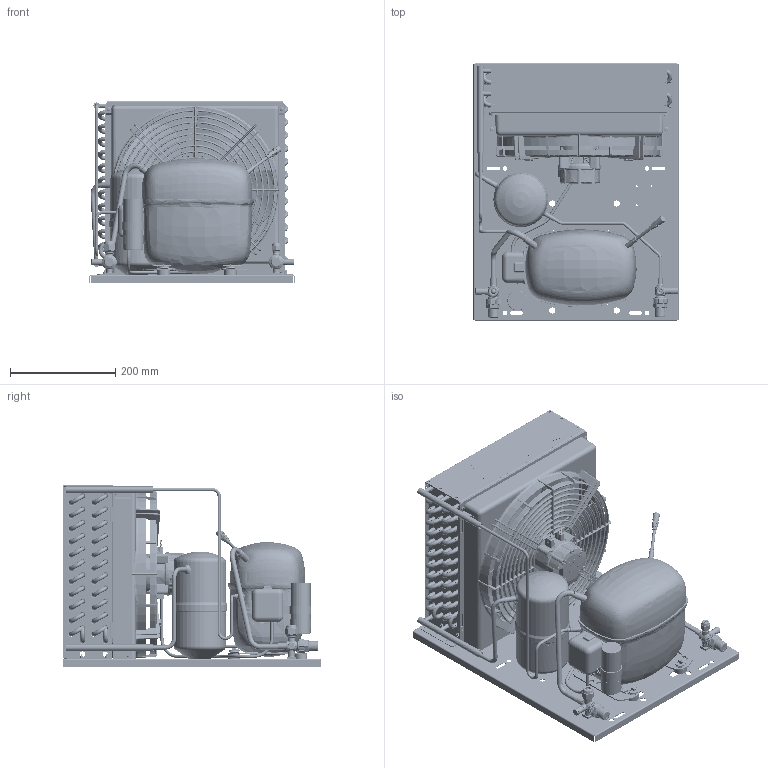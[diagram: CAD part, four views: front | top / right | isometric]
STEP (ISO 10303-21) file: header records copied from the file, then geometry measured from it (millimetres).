
FILE_DESCRIPTION(/* description */ ('Unknown'),/* implementation_level */ '2;1');
FILE_NAME(/* name */ '2298-0011',/* time_stamp */ '2021-12-15T09:05:55+01:00',/* author */ ('Unknown'),/* organization */ ('Unknown'),/* preprocessor_version */ 'ST-DEVELOPER v16.7',/* originating_system */ 'Solid Edge',/* authorisation */ 'Unknown');
FILE_SCHEMA (('AUTOMOTIVE_DESIGN {1 0 10303 214 3 1 1}'));
Products named in the file (60): 2298-0011; 92505124_oa_0; 1340315f70; r50115706; r50115707; 2990210; r59700361; r50115701; r50095108; r50115604; cg300n; 6062_22M6; a300-19; a300-19_costruzione_oa_1; a300-19_costruzione_oa_2; a300-19_costruzione_oa_3; a300-19_costruzione_oa_4; a300-19_costruzione_oa_5; 84fm8x12xxxteff00; 6072_23m10; 84DM8X6.9XXESRF00; 100_200vs00; 84a4.2x9.5xtbcf01; sc18cl-a-csr_piedino; 84RM10X21XXPIAF00; 84v1.8x35xxcopf00; 7210-0003; 8392_A; 7560_2; 7010_22; 7030_3m10; 7560_3; 99510255; 8351_2; 99510255_Tubo; 84t4.8x8xxxtcca00_oa_6; 84t4.8x8xxxtcca00_oa_7; 84t4.8x8xxxtcca00_oa_8; 84t4.8x8xxxtcca00_oa_9; 680063704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
Assembly tree (126 placements, depth 4):
  2298-0011
    92505124_oa_0
    1340315f70
      r50115706
      r50115707
      2990210  x24
      r59700361  x24
      r50115701
      r50095108
      r50115604  x2
    cg300n
    6062_22M6
    a300-19
      a300-19_costruzione_oa_1
      a300-19_costruzione_oa_2
      a300-19_costruzione_oa_3
      a300-19_costruzione_oa_4
      a300-19_costruzione_oa_5
    84fm8x12xxxteff00  x2
    6072_23m10
    84DM8X6.9XXESRF00
    100_200vs00
    84a4.2x9.5xtbcf01  x4
    sc18cl-a-csr_piedino  x4
    84RM10X21XXPIAF00  x4
    84v1.8x35xxcopf00  x4
    7210-0003  x2
    8392_A  x2
    7560_2
    7010_22
    7030_3m10
    7560_3
    99510255
      8351_2
      99510255_Tubo
      8392_A
    84t4.8x8xxxtcca00_oa_6
    84t4.8x8xxxtcca00_oa_7
    84t4.8x8xxxtcca00_oa_8
    84t4.8x8xxxtcca00_oa_9
    680063704
    sc15mlx-a-csir
      sc15mlx-a-csir_104B0078_ASM
        sc15mlx-a-csir_104B0605
        sc15mlx-a-csir_104B0494
        sc15mlx-a-csir_103B0887
      sc15mlx-a-csir_104B1402
      sc15mlx-a-csir_104B0321  x2
      sc15mlx-a-csir_104B0485
      sc15mlx-a-csir_103N0510
      sc15mlx-a-csir_103N2009
      sc15mlx-a-csir_117U5017
    84dm4x3.6xxesrf00  x4
    99000082_secop
    680063705
    99000082_SECOP_F-GAS
    62010155
    9221-0002
    2298-0011_CAVO_VENTOLA
    6805-1070
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Bounding box: 390 x 490 x 345.32 mm (x, y, z)
Volume: 9490758.2 mm3; surface area: 3602570.1 mm2
Topology: 120 solids, 127 shells, 12700 faces, 32979 edges, 21050 vertices
Faces by surface type: plane 5594, cylinder 2588, bspline 1909, torus 1517, cone 979, sphere 113
Full cylindrical faces by diameter (mm): 0.5 x1, 1 x3, 1.2 x4, 1.8 x20, 2.2 x4, 2.45 x6, 2.7 x4, 3 x6, 3.14 x6, 3.2 x2, 3.242 x4, 3.3 x2, 3.5 x13, 3.6 x4, 3.7 x4, 3.85 x2, 4 x28, 4.2 x14, 4.205 x11, 4.3 x1, 4.4 x4, 4.5 x6, 4.6 x1, 4.66 x5, 4.7 x4, 4.95 x1, 5 x9, 5.2 x1, 5.4 x2, 5.42 x1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
Entity records: 608465 total; most frequent: CARTESIAN_POINT 298780, ORIENTED_EDGE 57972, DIRECTION 42339, EDGE_CURVE 28986, VERTEX_POINT 19277, AXIS2_PLACEMENT_3D 16643, FACE_BOUND 14483, EDGE_LOOP 14481
